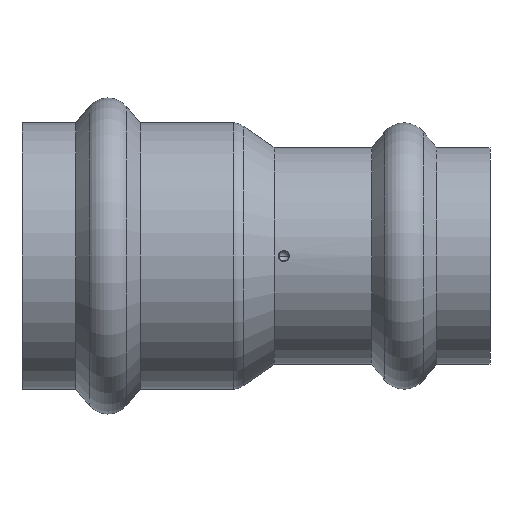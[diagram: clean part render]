
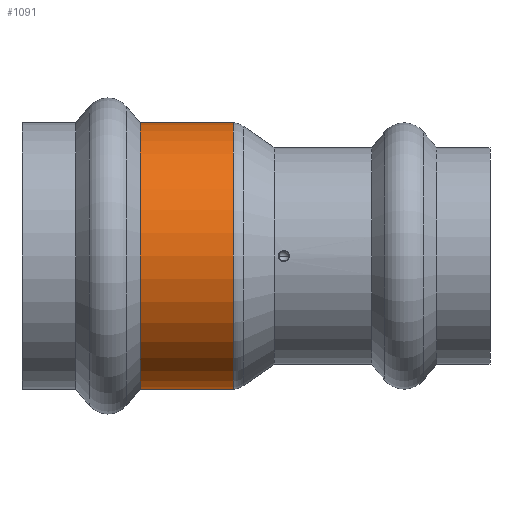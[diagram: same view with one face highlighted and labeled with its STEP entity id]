
A CAD part, front view. The second image highlights one B-rep face of the part: STEP entity #1091.
In plain terms, the highlighted cylindrical face has radius 15.5 mm (diameter 31 mm), a partial arc.
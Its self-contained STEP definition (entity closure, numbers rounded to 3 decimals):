
#12 = CARTESIAN_POINT ( 'NONE',  ( -33.9, 0., 0. ) ) ;
#18 = DIRECTION ( 'NONE',  ( -1., 0., 0. ) ) ;
#22 = VERTEX_POINT ( 'NONE', #912 ) ;
#23 = DIRECTION ( 'NONE',  ( 0., 0., 1. ) ) ;
#86 = CYLINDRICAL_SURFACE ( 'NONE', #534, 15.5 ) ;
#127 = VERTEX_POINT ( 'NONE', #1147 ) ;
#188 = CARTESIAN_POINT ( 'NONE',  ( -55.519, 0., 15.5 ) ) ;
#220 = DIRECTION ( 'NONE',  ( -1., 0., 0. ) ) ;
#260 = EDGE_CURVE ( 'NONE', #1827, #22, #1239, .T. ) ;
#337 = CARTESIAN_POINT ( 'NONE',  ( -55.519, 0., -15.5 ) ) ;
#359 = EDGE_CURVE ( 'NONE', #1555, #22, #763, .T. ) ;
#360 = CARTESIAN_POINT ( 'NONE',  ( -44.749, 0., -15.5 ) ) ;
#404 = VECTOR ( 'NONE', #220, 1000. ) ;
#451 = AXIS2_PLACEMENT_3D ( 'NONE', #12, #18, #23 ) ;
#534 = AXIS2_PLACEMENT_3D ( 'NONE', #1571, #1741, #1422 ) ;
#678 = CARTESIAN_POINT ( 'NONE',  ( -44.749, 0., 0. ) ) ;
#686 = AXIS2_PLACEMENT_3D ( 'NONE', #678, #1677, #819 ) ;
#763 = CIRCLE ( 'NONE', #686, 15.5 ) ;
#819 = DIRECTION ( 'NONE',  ( 0., 0., 1. ) ) ;
#912 = CARTESIAN_POINT ( 'NONE',  ( -44.749, 0., 15.5 ) ) ;
#927 = FACE_OUTER_BOUND ( 'NONE', #1676, .T. ) ;
#1091 = ADVANCED_FACE ( 'NONE', ( #927 ), #86, .T. ) ;
#1147 = CARTESIAN_POINT ( 'NONE',  ( -33.9, 0., -15.5 ) ) ;
#1239 = LINE ( 'NONE', #188, #1286 ) ;
#1271 = CIRCLE ( 'NONE', #451, 15.5 ) ;
#1286 = VECTOR ( 'NONE', #1766, 1000. ) ;
#1359 = CARTESIAN_POINT ( 'NONE',  ( -33.9, 0., 15.5 ) ) ;
#1363 = ORIENTED_EDGE ( 'NONE', *, *, #1524, .T. ) ;
#1422 = DIRECTION ( 'NONE',  ( 0., 0., 1. ) ) ;
#1457 = ORIENTED_EDGE ( 'NONE', *, *, #260, .T. ) ;
#1524 = EDGE_CURVE ( 'NONE', #127, #1827, #1271, .T. ) ;
#1543 = ORIENTED_EDGE ( 'NONE', *, *, #1559, .F. ) ;
#1555 = VERTEX_POINT ( 'NONE', #360 ) ;
#1559 = EDGE_CURVE ( 'NONE', #127, #1555, #1565, .T. ) ;
#1565 = LINE ( 'NONE', #337, #404 ) ;
#1571 = CARTESIAN_POINT ( 'NONE',  ( -55.519, 0., 0. ) ) ;
#1676 = EDGE_LOOP ( 'NONE', ( #1543, #1363, #1457, #1764 ) ) ;
#1677 = DIRECTION ( 'NONE',  ( -1., 0., 0. ) ) ;
#1741 = DIRECTION ( 'NONE',  ( -1., 0., 0. ) ) ;
#1764 = ORIENTED_EDGE ( 'NONE', *, *, #359, .F. ) ;
#1766 = DIRECTION ( 'NONE',  ( -1., 0., 0. ) ) ;
#1827 = VERTEX_POINT ( 'NONE', #1359 ) ;
